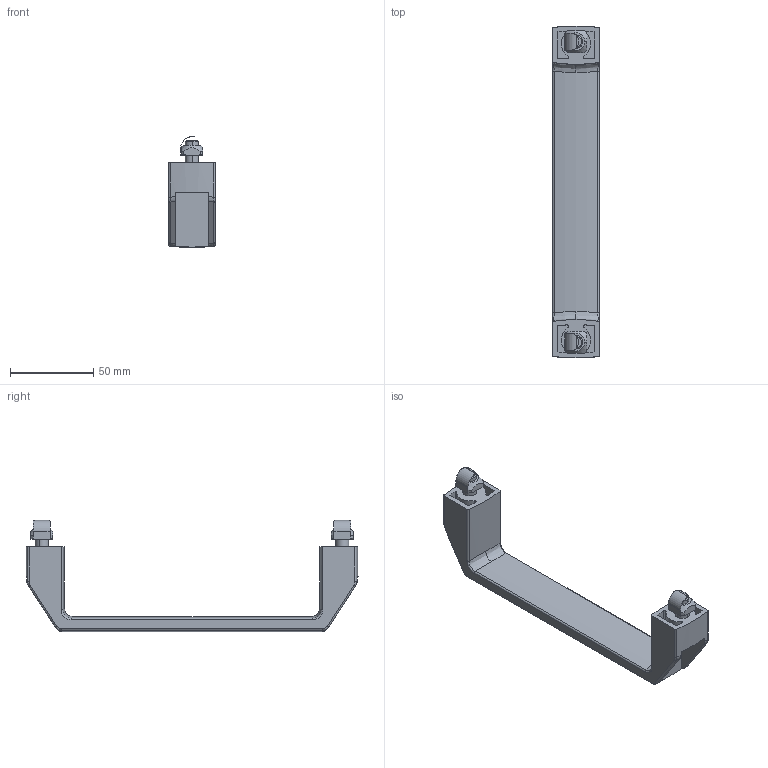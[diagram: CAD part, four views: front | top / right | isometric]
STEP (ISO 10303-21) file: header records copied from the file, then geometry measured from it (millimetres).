
FILE_DESCRIPTION (( 'STEP AP214' ), '1' );
FILE_NAME ('1.4019 Kahva 180.STEP', '2025-09-10T11:00:55', ( '' ), ( '' ), 'SwSTEP 2.0', 'SolidWorks 2025', '' );
FILE_SCHEMA (( 'AUTOMOTIVE_DESIGN' ));
Length unit declared in the file: millimetre
Products named in the file (1): 1.4019 Kahva 180
Bounding box: 28 x 198.89 x 66.55 mm (x, y, z)
Volume: 66600.7 mm3; surface area: 30119.3 mm2
Topology: 5 solids, 5 shells, 224 faces, 552 edges, 344 vertices
Faces by surface type: plane 100, cylinder 76, bspline 22, cone 18, torus 8
Entity records: 9187 total; most frequent: CARTESIAN_POINT 2785, ORIENTED_EDGE 1096, DIRECTION 978, EDGE_CURVE 548, AXIS2_PLACEMENT_3D 367, VERTEX_POINT 344, LINE 244, VECTOR 244
